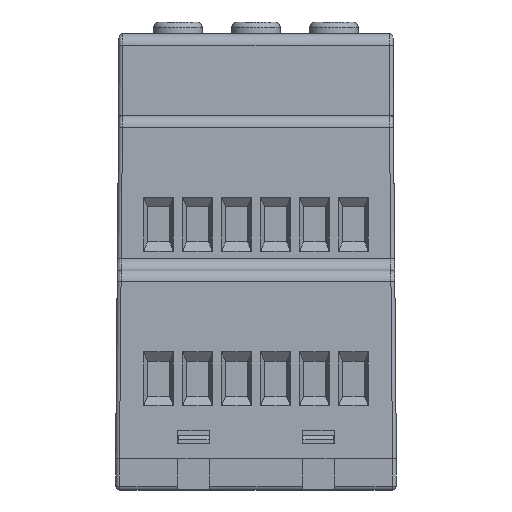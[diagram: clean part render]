
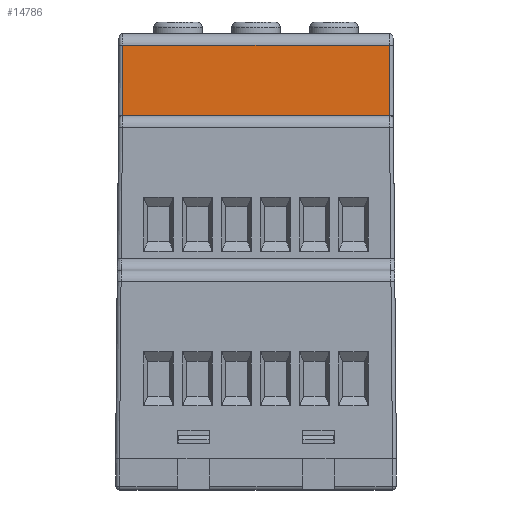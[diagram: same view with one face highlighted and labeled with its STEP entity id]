
A CAD part, front view. The second image highlights one B-rep face of the part: STEP entity #14786.
In plain terms, the highlighted planar face has unit normal (0, -1, 0.009).
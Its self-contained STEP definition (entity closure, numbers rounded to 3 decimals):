
#38 = LINE ( 'NONE', #30279, #1334 ) ;
#926 = ORIENTED_EDGE ( 'NONE', *, *, #11984, .T. ) ;
#1117 = CARTESIAN_POINT ( 'NONE',  ( 18., 22.4, 48. ) ) ;
#1334 = VECTOR ( 'NONE', #36879, 1000. ) ;
#1383 = CARTESIAN_POINT ( 'NONE',  ( 4.5, 22.4, 48. ) ) ;
#1444 = VERTEX_POINT ( 'NONE', #11704 ) ;
#1594 = VERTEX_POINT ( 'NONE', #20482 ) ;
#1622 = DIRECTION ( 'NONE',  ( 1., 0., 0. ) ) ;
#2047 = VECTOR ( 'NONE', #13923, 1000. ) ;
#2215 = CARTESIAN_POINT ( 'NONE',  ( 35.058, 22.492, 58.496 ) ) ;
#2245 = VERTEX_POINT ( 'NONE', #14247 ) ;
#2382 = VECTOR ( 'NONE', #1622, 1000. ) ;
#2493 = CARTESIAN_POINT ( 'NONE',  ( 4.475, 22.4, 48. ) ) ;
#2723 = DIRECTION ( 'NONE',  ( -1., 0., 0. ) ) ;
#3014 = VECTOR ( 'NONE', #4130, 1000. ) ;
#3127 = EDGE_CURVE ( 'NONE', #14082, #3678, #38, .T. ) ;
#3347 = LINE ( 'NONE', #27985, #32720 ) ;
#3490 = CARTESIAN_POINT ( 'NONE',  ( 28.463, 22.4, 48. ) ) ;
#3593 = ORIENTED_EDGE ( 'NONE', *, *, #29791, .T. ) ;
#3678 = VERTEX_POINT ( 'NONE', #33684 ) ;
#3770 = VECTOR ( 'NONE', #2723, 1000. ) ;
#3901 = DIRECTION ( 'NONE',  ( -1., 0., 0. ) ) ;
#4118 = DIRECTION ( 'NONE',  ( 0., -1., 0.009 ) ) ;
#4130 = DIRECTION ( 'NONE',  ( 0.035, -0.009, -0.999 ) ) ;
#4430 = LINE ( 'NONE', #13057, #2382 ) ;
#4905 = LINE ( 'NONE', #34985, #3014 ) ;
#5320 = EDGE_CURVE ( 'NONE', #24225, #9630, #16923, .T. ) ;
#5982 = DIRECTION ( 'NONE',  ( -0.035, -0.009, -0.999 ) ) ;
#6929 = LINE ( 'NONE', #1117, #8179 ) ;
#7007 = EDGE_CURVE ( 'NONE', #26787, #27277, #28954, .T. ) ;
#8157 = LINE ( 'NONE', #20386, #13403 ) ;
#8179 = VECTOR ( 'NONE', #13141, 1000. ) ;
#8194 = ORIENTED_EDGE ( 'NONE', *, *, #23259, .T. ) ;
#8234 = VECTOR ( 'NONE', #38359, 1000. ) ;
#8436 = DIRECTION ( 'NONE',  ( -0.009, 0.009, 1. ) ) ;
#8624 = ORIENTED_EDGE ( 'NONE', *, *, #21244, .F. ) ;
#8688 = CARTESIAN_POINT ( 'NONE',  ( 4.463, 22.4, 48. ) ) ;
#8714 = VERTEX_POINT ( 'NONE', #22613 ) ;
#8825 = EDGE_CURVE ( 'NONE', #9630, #9312, #3347, .T. ) ;
#8912 = CARTESIAN_POINT ( 'NONE',  ( 0.871, 22.4, 48. ) ) ;
#9002 = LINE ( 'NONE', #21214, #39480 ) ;
#9030 = EDGE_CURVE ( 'NONE', #30074, #1594, #4905, .T. ) ;
#9257 = EDGE_CURVE ( 'NONE', #31025, #1594, #9506, .T. ) ;
#9312 = VERTEX_POINT ( 'NONE', #3490 ) ;
#9506 = LINE ( 'NONE', #30943, #15806 ) ;
#9630 = VERTEX_POINT ( 'NONE', #37312 ) ;
#9804 = CARTESIAN_POINT ( 'NONE',  ( 7.5, 22.4, 48. ) ) ;
#10267 = DIRECTION ( 'NONE',  ( -0.035, -0.009, -0.999 ) ) ;
#10344 = FACE_OUTER_BOUND ( 'NONE', #29740, .T. ) ;
#10512 = CARTESIAN_POINT ( 'NONE',  ( 18., 22.4, 48. ) ) ;
#10842 = VERTEX_POINT ( 'NONE', #1383 ) ;
#11704 = CARTESIAN_POINT ( 'NONE',  ( 4.463, 22.4, 48. ) ) ;
#11706 = CARTESIAN_POINT ( 'NONE',  ( 0.85, 22.401, 48. ) ) ;
#11984 = EDGE_CURVE ( 'NONE', #29673, #18053, #4430, .T. ) ;
#12313 = ORIENTED_EDGE ( 'NONE', *, *, #37196, .T. ) ;
#12529 = DIRECTION ( 'NONE',  ( 0., -0.009, -1. ) ) ;
#13057 = CARTESIAN_POINT ( 'NONE',  ( 18., 22.4, 48. ) ) ;
#13141 = DIRECTION ( 'NONE',  ( 1., 0., 0. ) ) ;
#13403 = VECTOR ( 'NONE', #32225, 1000. ) ;
#13923 = DIRECTION ( 'NONE',  ( 1., 0., 0. ) ) ;
#14082 = VERTEX_POINT ( 'NONE', #23861 ) ;
#14247 = CARTESIAN_POINT ( 'NONE',  ( 0.882, 22.4, 48. ) ) ;
#14438 = LINE ( 'NONE', #2215, #21646 ) ;
#14786 = ADVANCED_FACE ( 'NONE', ( #10344 ), #36984, .T. ) ;
#14971 = CARTESIAN_POINT ( 'NONE',  ( 35.15, 22.401, 48. ) ) ;
#15790 = VECTOR ( 'NONE', #22630, 1000. ) ;
#15806 = VECTOR ( 'NONE', #3901, 1000. ) ;
#16365 = VERTEX_POINT ( 'NONE', #19154 ) ;
#16751 = EDGE_CURVE ( 'NONE', #3678, #2245, #30210, .T. ) ;
#16923 = LINE ( 'NONE', #10512, #2047 ) ;
#17374 = EDGE_CURVE ( 'NONE', #9312, #30074, #6929, .T. ) ;
#17740 = LINE ( 'NONE', #36581, #3770 ) ;
#18053 = VERTEX_POINT ( 'NONE', #14971 ) ;
#18491 = EDGE_CURVE ( 'NONE', #18053, #28371, #14438, .T. ) ;
#18952 = DIRECTION ( 'NONE',  ( 1., 0., 0. ) ) ;
#19154 = CARTESIAN_POINT ( 'NONE',  ( 4.535, 22.391, 47. ) ) ;
#19596 = ORIENTED_EDGE ( 'NONE', *, *, #9257, .F. ) ;
#20067 = LINE ( 'NONE', #38100, #33089 ) ;
#20386 = CARTESIAN_POINT ( 'NONE',  ( 4.516, 22.396, 47.529 ) ) ;
#20462 = AXIS2_PLACEMENT_3D ( 'NONE', #34182, #4118, #12529 ) ;
#20482 = CARTESIAN_POINT ( 'NONE',  ( 28.535, 22.391, 47. ) ) ;
#21214 = CARTESIAN_POINT ( 'NONE',  ( 31.514, 22.403, 48.394 ) ) ;
#21244 = EDGE_CURVE ( 'NONE', #26787, #31025, #9002, .T. ) ;
#21646 = VECTOR ( 'NONE', #8436, 1000. ) ;
#22223 = LINE ( 'NONE', #25046, #34335 ) ;
#22314 = ORIENTED_EDGE ( 'NONE', *, *, #18491, .T. ) ;
#22341 = CARTESIAN_POINT ( 'NONE',  ( 18., 22.4, 48. ) ) ;
#22613 = CARTESIAN_POINT ( 'NONE',  ( 7.465, 22.391, 47. ) ) ;
#22630 = DIRECTION ( 'NONE',  ( 1., 0., 0. ) ) ;
#23259 = EDGE_CURVE ( 'NONE', #28371, #14082, #17740, .T. ) ;
#23599 = ORIENTED_EDGE ( 'NONE', *, *, #16751, .T. ) ;
#23861 = CARTESIAN_POINT ( 'NONE',  ( 0.929, 22.479, 57.013 ) ) ;
#23908 = ORIENTED_EDGE ( 'NONE', *, *, #5320, .T. ) ;
#24225 = VERTEX_POINT ( 'NONE', #9804 ) ;
#24280 = ORIENTED_EDGE ( 'NONE', *, *, #39382, .T. ) ;
#24668 = EDGE_CURVE ( 'NONE', #8714, #16365, #25318, .T. ) ;
#24828 = CARTESIAN_POINT ( 'NONE',  ( 35.12, 22.4, 48. ) ) ;
#25046 = CARTESIAN_POINT ( 'NONE',  ( 18., 22.4, 48. ) ) ;
#25048 = CARTESIAN_POINT ( 'NONE',  ( 18., 22.4, 48. ) ) ;
#25318 = LINE ( 'NONE', #31545, #28687 ) ;
#25918 = DIRECTION ( 'NONE',  ( -1., 0., 0. ) ) ;
#26193 = CARTESIAN_POINT ( 'NONE',  ( 31.465, 22.391, 47. ) ) ;
#26787 = VERTEX_POINT ( 'NONE', #32353 ) ;
#27132 = CARTESIAN_POINT ( 'NONE',  ( 0.861, 22.4, 48. ) ) ;
#27277 = VERTEX_POINT ( 'NONE', #32313 ) ;
#27985 = CARTESIAN_POINT ( 'NONE',  ( 18., 22.4, 48. ) ) ;
#28371 = VERTEX_POINT ( 'NONE', #32846 ) ;
#28687 = VECTOR ( 'NONE', #25918, 1000. ) ;
#28954 = LINE ( 'NONE', #22341, #8234 ) ;
#29297 = B_SPLINE_CURVE_WITH_KNOTS ( 'NONE', 3,
 ( #8688, #2493, #38577, #38747 ),
 .UNSPECIFIED., .F., .F.,
 ( 4, 4 ),
 ( 0.99, 1. ),
 .UNSPECIFIED. ) ;
#29673 = VERTEX_POINT ( 'NONE', #24828 ) ;
#29740 = EDGE_LOOP ( 'NONE', ( #38111, #37649, #23908, #36763, #39298, #31173, #19596, #8624, #38318, #3593, #926, #22314, #8194, #39122, #23599, #24280, #31609, #12313 ) ) ;
#29791 = EDGE_CURVE ( 'NONE', #27277, #29673, #22223, .T. ) ;
#30074 = VERTEX_POINT ( 'NONE', #37612 ) ;
#30147 = CARTESIAN_POINT ( 'NONE',  ( 0.882, 22.4, 48. ) ) ;
#30210 = B_SPLINE_CURVE_WITH_KNOTS ( 'NONE', 3,
 ( #11706, #27132, #8912, #30147 ),
 .UNSPECIFIED., .F., .F.,
 ( 4, 4 ),
 ( 0., 0.009 ),
 .UNSPECIFIED. ) ;
#30279 = CARTESIAN_POINT ( 'NONE',  ( 0.851, 22.401, 48.15 ) ) ;
#30943 = CARTESIAN_POINT ( 'NONE',  ( 34.5, 22.391, 47. ) ) ;
#31025 = VERTEX_POINT ( 'NONE', #26193 ) ;
#31173 = ORIENTED_EDGE ( 'NONE', *, *, #9030, .T. ) ;
#31545 = CARTESIAN_POINT ( 'NONE',  ( 34.5, 22.391, 47. ) ) ;
#31609 = ORIENTED_EDGE ( 'NONE', *, *, #36150, .T. ) ;
#32225 = DIRECTION ( 'NONE',  ( 0.035, -0.009, -0.999 ) ) ;
#32313 = CARTESIAN_POINT ( 'NONE',  ( 31.537, 22.4, 48. ) ) ;
#32353 = CARTESIAN_POINT ( 'NONE',  ( 31.5, 22.4, 48. ) ) ;
#32720 = VECTOR ( 'NONE', #18952, 1000. ) ;
#32846 = CARTESIAN_POINT ( 'NONE',  ( 35.071, 22.479, 57.013 ) ) ;
#33089 = VECTOR ( 'NONE', #10267, 1000. ) ;
#33388 = EDGE_CURVE ( 'NONE', #24225, #8714, #20067, .T. ) ;
#33684 = CARTESIAN_POINT ( 'NONE',  ( 0.85, 22.401, 48. ) ) ;
#34182 = CARTESIAN_POINT ( 'NONE',  ( 18., 22.4, 48. ) ) ;
#34335 = VECTOR ( 'NONE', #37270, 1000. ) ;
#34985 = CARTESIAN_POINT ( 'NONE',  ( 28.486, 22.403, 48.394 ) ) ;
#36150 = EDGE_CURVE ( 'NONE', #1444, #10842, #29297, .T. ) ;
#36581 = CARTESIAN_POINT ( 'NONE',  ( 18., 22.479, 57.013 ) ) ;
#36763 = ORIENTED_EDGE ( 'NONE', *, *, #8825, .T. ) ;
#36879 = DIRECTION ( 'NONE',  ( -0.009, -0.009, -1. ) ) ;
#36984 = PLANE ( 'NONE',  #20462 ) ;
#37196 = EDGE_CURVE ( 'NONE', #10842, #16365, #8157, .T. ) ;
#37270 = DIRECTION ( 'NONE',  ( 1., 0., 0. ) ) ;
#37312 = CARTESIAN_POINT ( 'NONE',  ( 7.537, 22.4, 48. ) ) ;
#37612 = CARTESIAN_POINT ( 'NONE',  ( 28.5, 22.4, 48. ) ) ;
#37649 = ORIENTED_EDGE ( 'NONE', *, *, #33388, .F. ) ;
#37867 = LINE ( 'NONE', #25048, #15790 ) ;
#38100 = CARTESIAN_POINT ( 'NONE',  ( 7.513, 22.403, 48.366 ) ) ;
#38111 = ORIENTED_EDGE ( 'NONE', *, *, #24668, .F. ) ;
#38318 = ORIENTED_EDGE ( 'NONE', *, *, #7007, .T. ) ;
#38359 = DIRECTION ( 'NONE',  ( 1., 0., 0. ) ) ;
#38577 = CARTESIAN_POINT ( 'NONE',  ( 4.488, 22.4, 48. ) ) ;
#38747 = CARTESIAN_POINT ( 'NONE',  ( 4.5, 22.4, 48. ) ) ;
#39122 = ORIENTED_EDGE ( 'NONE', *, *, #3127, .T. ) ;
#39298 = ORIENTED_EDGE ( 'NONE', *, *, #17374, .T. ) ;
#39382 = EDGE_CURVE ( 'NONE', #2245, #1444, #37867, .T. ) ;
#39480 = VECTOR ( 'NONE', #5982, 1000. ) ;
